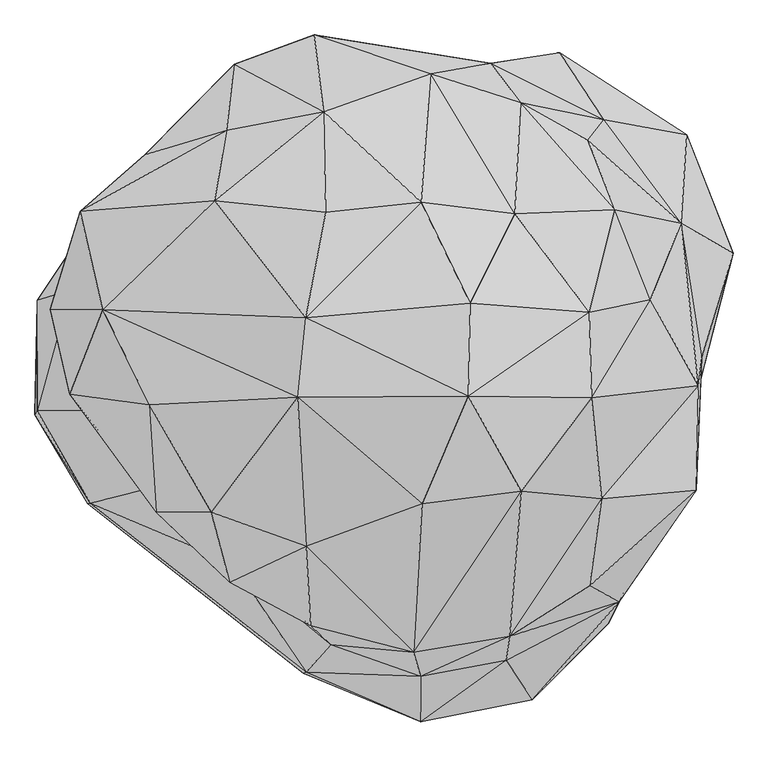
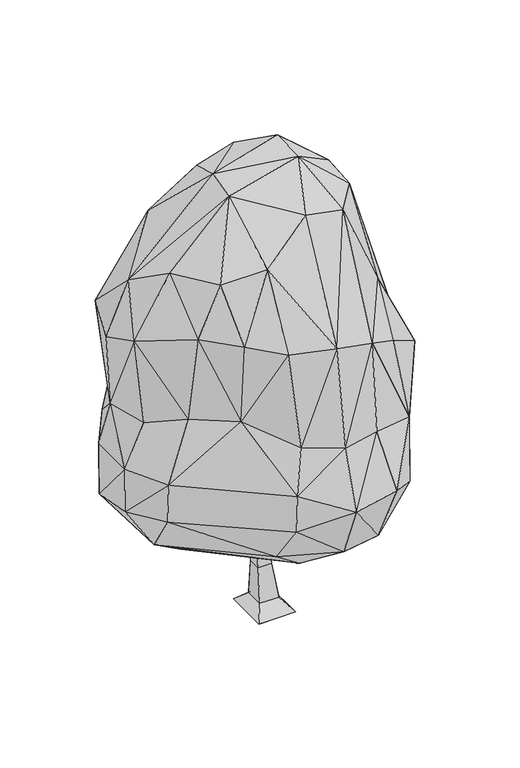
"""IFC4 building model written with IfcOpenShell, lengths in millimetres: geographic element geometry, Enscape AssetDefinition - Evergreen Tree 066 Lophostemon : Enscape AssetDefinition - Evergreen Tree 066 Lophostemon 4."""

from ifc_helpers import new_model, si_unit, origin, place, context, project, spatial, triangles, source, transform, mapped, element, save


def geographic_element_56f19f58(model_context):
    return source(origin(), model_context, "Body", "Tessellation", [
        triangles([(356.0929084, 389.2522216, 0.0), (356.0929084, -560.2828794, 0.0), (-429.3913413, -560.2828794, 0.0), (-429.3913413, 389.2522216, 0.0), (-205.6085981, -205.6085981, 173.8227658), (-173.0380935, -91.3283462, 898.410351), (205.6085981, 205.6085981, 173.8227658), (-205.6085981, 205.6085981, 173.8227658), (205.6085981, -205.6085981, 173.8227658), (118.1843832, 199.8941395, 898.410351), (-233.6719651, 117.781092, 3057.4197739), (-173.0380935, 199.8941395, 898.410351), (-233.6719651, 366.8298984, 3057.4197739), (15.3768673, 366.8298984, 3057.4197739), (118.1843832, -91.3283462, 898.410351), (15.3768673, 117.781092, 3057.4197739), (1711.9709393, 564.8840884, 9096.3802322), (1105.8910732, 2409.6972462, 7088.7952148), (313.666719, 2667.8403557, 7197.7908875), (1056.6371756, 1430.6452332, 9189.2943283), (662.5118866, 642.3971987, 9981.3279602), (231.4982606, 1530.6272118, 9425.9106995), (-786.1787567, 516.2602032, 9680.7730499), (-630.3356529, 2330.8761852, 8043.5131027), (-1419.985564, 2748.4392151, 5391.8918152), (-610.0019377, 1444.105022, 9249.1116074), (-2776.8584106, 1451.7186562, 6949.4101181), (-1589.0771324, 1547.8826992, 8515.8557831), (-1485.2296921, 2169.9150799, 7439.7813492), (-3040.382151, 588.6142533, 6728.6410355), (-2206.6205429, 1951.1317772, 6557.0904602), (-2864.8518768, 758.3601786, 5057.0389984), (-3153.8490623, 667.6335943, 4309.0663399), (-2598.4820892, 1504.5815632, 4378.2531052), (-2578.396978, 585.8838967, 7868.07323), (-2869.4893845, -159.5321046, 7019.0337753), (-2166.1012138, -251.732745, 8374.9504303), (-856.7365866, -187.8106474, 9623.7271133), (647.2264824, -176.372701, 10000.0000763), (1732.7683617, -191.8745527, 9016.2287292), (2252.2074406, 673.156077, 7169.1368225), (2673.9992821, -85.3304111, 5890.546843), (238.9174117, -1127.7258596, 9380.1361679), (1112.4160383, -1014.9081093, 9124.2134171), (-783.2242132, -1501.9581768, 8727.8440063), (-742.7282112, -2202.7395298, 7198.0129669), (162.6811857, -2435.2932129, 7174.5161453), (225.6098664, -2646.8157669, 5017.2635193), (-1619.9842575, -1201.4741198, 8483.7432083), (-1459.4417313, -1818.1901825, 7405.4462357), (-1435.5841759, -1649.8010422, 5598.1984085), (-567.9841899, -2367.6291744, 5137.4585083), (-2202.3735638, -995.7507757, 5523.989566), (-2106.5227283, -1201.9701651, 7420.3499771), (-2750.7663986, -301.8473823, 5225.2345459), (-2686.6845543, -1121.1751694, 4276.3165947), (-3157.3837303, -304.8534488, 4311.3446892), (-3176.1081688, -339.686497, 3377.291819), (-3155.4300705, 649.4826674, 3176.6502869), (-2712.1579994, -1123.7057562, 3446.201857), (-943.6454533, -2116.6244373, 2653.1168358), (-2654.9024826, -523.0273773, 2558.4665085), (-2171.7965057, 568.5666035, 2146.6181007), (194.4283394, -2645.634153, 2689.3631699), (-808.4774683, -2620.1057693, 3459.5943535), (-246.2695428, -1750.6953197, 2036.7546032), (945.3952011, 700.4077566, 1537.4176403), (-638.0175968, 1438.0424561, 2114.0228519), (-1922.6574978, -236.0659869, 2028.2596275), (828.7570444, 1450.3786217, 1598.6518387), (1761.2067421, -1756.6247543, 2645.0609322), (912.3299955, -1625.3095139, 2042.6856365), (2702.6786362, 1469.756218, 2567.972905), (1908.163179, 475.8067494, 1770.9516415), (976.3100292, -2579.4716217, 2748.430204), (2481.0691978, -866.2740858, 3443.1392532), (2723.0599503, 531.6499615, 2576.5337196), (2572.7069183, 2130.6215481, 3457.6177299), (1877.5949867, 1468.3491817, 1772.8314686), (1994.0269787, 2376.1113602, 2474.3794899), (2980.5198166, 1085.4144161, 3438.9078255), (2704.8354813, 167.88799, 4563.4261047), (1821.6382278, -1079.2528009, 7368.1159561), (2656.495118, -1008.313599, 5615.6287399), (1715.1573727, -1849.0186787, 6470.0707718), (1011.1262907, -2293.5963387, 6913.9686768), (1882.1445637, -2177.6166447, 3413.8773766), (1977.3872967, -1987.6669018, 4722.580925), (1211.6157246, -2853.3380447, 3843.381974), (980.5220541, -2506.5414803, 5052.3387039), (226.9189616, -3049.3266632, 3816.7065674), (-784.9881317, -2611.4737381, 4249.8821617), (2521.7187515, 1348.3621742, 4889.0463455), (1841.4438503, 2259.6715199, 5048.9796066), (1938.7081169, 1469.1492783, 7357.7433334), (1700.5637867, 2078.1282406, 6657.1308655), (1451.6580494, 2853.899929, 3459.2891396), (843.9290108, 2758.2511162, 4623.0989159), (-712.0994848, 3008.3436996, 5448.0395508), (1016.8240534, 2474.5765709, 2184.4649185), (-1546.9446751, 2166.3395714, 3904.5430664), (-123.9710031, 2596.8443985, 3716.7234261), (74.4233188, 2305.5136345, 2504.5212547), (-2521.4920212, 1636.1587063, 3349.8612259), (-2226.4027657, 1395.7374802, 2635.7580116)], [[34, 59, 33], [34, 104, 59], [104, 105, 59], [59, 105, 63], [68, 63, 105], [25, 101, 34], [34, 101, 104], [104, 101, 105], [105, 103, 68], [101, 103, 105], [70, 68, 103], [100, 70, 103], [25, 99, 102], [25, 102, 101], [102, 100, 103], [102, 103, 101], [102, 97, 100], [97, 102, 98], [98, 102, 99], [18, 94, 98], [98, 94, 97], [96, 94, 18], [96, 18, 95], [96, 95, 93], [96, 93, 94], [93, 95, 41], [91, 65, 64], [75, 91, 64], [92, 91, 48], [65, 91, 92], [75, 89, 91], [87, 89, 75], [91, 89, 90], [91, 90, 48], [90, 86, 48], [88, 89, 87], [89, 88, 90], [88, 86, 90], [76, 88, 87], [88, 85, 86], [85, 83, 86], [76, 84, 88], [84, 85, 88], [83, 85, 84], [93, 41, 42], [83, 84, 42], [93, 42, 82], [76, 82, 84], [42, 84, 82], [81, 93, 82], [76, 81, 82], [94, 93, 78], [94, 78, 97], [93, 81, 78], [97, 80, 100], [97, 78, 80], [80, 79, 100], [79, 70, 100], [73, 79, 80], [80, 78, 73], [81, 73, 78], [81, 77, 73], [81, 76, 77], [76, 87, 71], [71, 77, 76], [87, 75, 71], [70, 79, 74], [74, 79, 73], [77, 71, 74], [74, 73, 77], [71, 75, 72], [74, 71, 72], [70, 74, 67], [74, 72, 67], [68, 69, 63], [68, 70, 69], [70, 67, 69], [75, 64, 66], [72, 66, 67], [75, 66, 72], [66, 69, 67], [66, 64, 61], [61, 64, 65], [62, 59, 63], [66, 62, 69], [61, 62, 66], [62, 63, 69], [61, 65, 60], [61, 60, 62], [60, 58, 62], [59, 62, 58], [57, 33, 59], [57, 59, 58], [56, 57, 58], [65, 92, 56], [56, 58, 60], [65, 56, 60], [56, 55, 57], [56, 53, 55], [36, 55, 53], [36, 54, 37], [36, 53, 54], [54, 53, 51], [92, 51, 56], [51, 53, 56], [52, 51, 92], [48, 52, 92], [46, 51, 52], [46, 50, 51], [54, 51, 50], [49, 54, 50], [49, 37, 54], [37, 49, 38], [38, 49, 45], [45, 49, 50], [50, 46, 45], [47, 46, 52], [86, 47, 48], [47, 52, 48], [46, 47, 45], [43, 45, 47], [43, 38, 45], [44, 47, 86], [44, 43, 47], [83, 44, 86], [41, 40, 42], [44, 83, 40], [42, 40, 83], [41, 17, 40], [17, 41, 95], [43, 39, 38], [39, 43, 44], [44, 40, 39], [17, 39, 40], [39, 23, 38], [35, 37, 38], [35, 36, 37], [35, 38, 23], [35, 30, 36], [32, 25, 34], [32, 33, 57], [36, 30, 32], [34, 33, 32], [32, 57, 55], [36, 32, 55], [32, 31, 25], [32, 27, 31], [27, 32, 30], [35, 27, 30], [31, 29, 25], [27, 29, 31], [28, 27, 35], [28, 29, 27], [28, 35, 23], [23, 26, 28], [24, 99, 25], [24, 25, 29], [28, 24, 29], [24, 28, 26], [19, 18, 98], [99, 19, 98], [24, 19, 99], [22, 19, 24], [22, 26, 23], [22, 24, 26], [39, 21, 23], [17, 21, 39], [22, 23, 21], [21, 20, 22], [95, 20, 17], [20, 18, 19], [22, 20, 19], [20, 95, 18], [20, 21, 17], [15, 14, 16], [15, 10, 14], [10, 13, 14], [12, 11, 13], [10, 12, 13], [6, 16, 11], [6, 15, 16], [12, 6, 11], [5, 15, 6], [9, 10, 15], [5, 9, 15], [7, 12, 10], [9, 7, 10], [7, 8, 12], [8, 6, 12], [8, 5, 6], [4, 5, 8], [4, 3, 5], [3, 9, 5], [2, 7, 9], [3, 2, 9], [2, 1, 7], [1, 8, 7], [1, 4, 8], [1, 3, 4], [1, 2, 3]], closed=False),
    ])


if __name__ == "__main__":
    model = new_model("IFC4")
    model_context = context("Model", 3, world=origin())
    ifc_project = project(units=[si_unit("LENGTHUNIT", "METRE", prefix="MILLI")], contexts=[model_context])
    site = spatial("IfcSite", under=ifc_project)
    building = spatial("IfcBuilding", under=site)
    placement = place(None, origin())
    geographic_element_shape = geographic_element_56f19f58(model_context)
    element("IfcGeographicElement", 1, ObjectType="Enscape AssetDefinition - Evergreen Tree 066 Lophostemon : Enscape AssetDefinition - Evergreen Tree 066 Lophostemon 4", at=placement, inside=building, context=model_context, shape_type="MappedRepresentation", body=[
        mapped(geographic_element_shape, transform((0.0, 0.0, 0.0), x_axis=(1.0, 0.0, 0.0), y_axis=(0.0, 1.0, 0.0), z_axis=(0.0, 0.0, 1.0))),
    ])
    save(model, "model.ifc")
